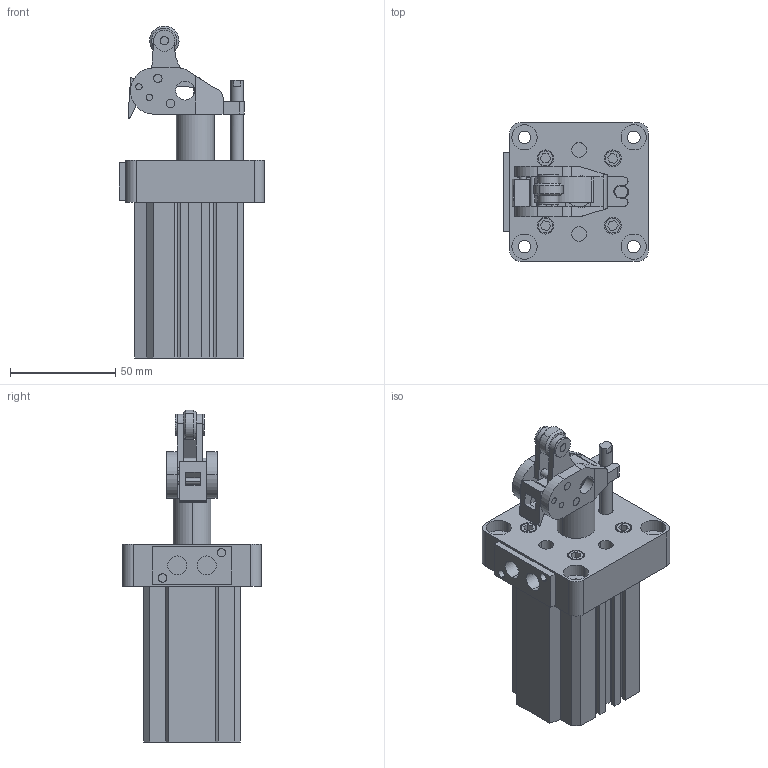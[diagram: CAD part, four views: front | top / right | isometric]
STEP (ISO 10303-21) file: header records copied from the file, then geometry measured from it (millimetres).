
FILE_DESCRIPTION (( 'STEP AP214' ), '1' );
FILE_NAME ('gtf 32.STEP', '2011-11-16T15:19:31', ( 'Christophe Gaillard' ), ( 'SGA' ), 'SwSTEP 2.0', 'SolidWorks 2010', '' );
FILE_SCHEMA (( 'AUTOMOTIVE_DESIGN' ));
Length unit declared in the file: millimetre
Products named in the file (11): axe languette-3; gachette-3; gtf 32-3; axe roulette-3; languette-3; rondelle-3; vis-3; axe gachette-3; Pièce1-3; roulette-3; gtf 32
Assembly tree (16 placements, depth 2):
  gtf 32
    languette-3
    roulette-3
    gtf 32-3
    axe languette-3  x2
    axe gachette-3  x2
    vis-3  x4
    gachette-3
    axe roulette-3
    Pièce1-3
    rondelle-3  x2
Bounding box: 69 x 66 x 157.9 mm (x, y, z)
Volume: 242474.5 mm3; surface area: 60851.5 mm2
Topology: 16 solids, 16 shells, 382 faces, 935 edges, 621 vertices
Faces by surface type: plane 206, cylinder 169, cone 4, bspline 2, sphere 1
Entity records: 14116 total; most frequent: CARTESIAN_POINT 1849, DIRECTION 1796, ORIENTED_EDGE 1638, EDGE_CURVE 819, AXIS2_PLACEMENT_3D 653, VERTEX_POINT 544, VECTOR 490, LINE 490
